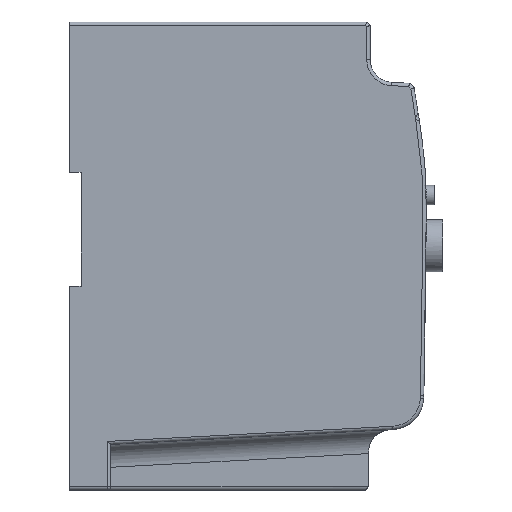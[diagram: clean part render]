
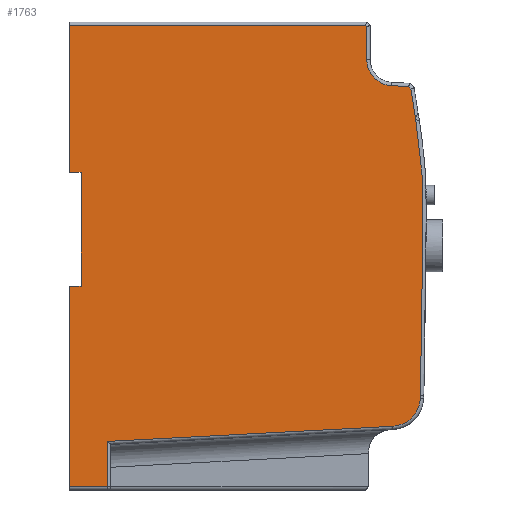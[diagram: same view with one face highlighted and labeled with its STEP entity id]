
A CAD part, front view. The second image highlights one B-rep face of the part: STEP entity #1763.
In plain terms, the highlighted planar face has unit normal (0, -1, 0).
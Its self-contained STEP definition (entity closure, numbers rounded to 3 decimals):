
#1763=ADVANCED_FACE('',(#6102),#6104,.T.);
#6102=FACE_BOUND('',#6103,.T.);
#6103=EDGE_LOOP('',(#10495,#10496,#10497,#10498,#10499,#10500,#10501,#10502,#10503,
#10504,#10505,#10506,#10507,#10508,#10509,#10510,#10511,#10512));
#6104=PLANE('',#6105);
#6105=AXIS2_PLACEMENT_3D('',#6106,#6107,#6108);
#6106=CARTESIAN_POINT('',(0.,-42.5,0.));
#6107=DIRECTION('',(0.,-1.,0.));
#6108=DIRECTION('',(1.,0.,0.));
#10495=ORIENTED_EDGE('',*,*,#12668,.T.);
#10496=ORIENTED_EDGE('',*,*,#12669,.T.);
#10497=ORIENTED_EDGE('',*,*,#12670,.T.);
#10498=ORIENTED_EDGE('',*,*,#12671,.T.);
#10499=ORIENTED_EDGE('',*,*,#12672,.T.);
#10500=ORIENTED_EDGE('',*,*,#12673,.T.);
#10501=ORIENTED_EDGE('',*,*,#12674,.T.);
#10502=ORIENTED_EDGE('',*,*,#12675,.T.);
#10503=ORIENTED_EDGE('',*,*,#12676,.T.);
#10504=ORIENTED_EDGE('',*,*,#12632,.T.);
#10505=ORIENTED_EDGE('',*,*,#12643,.T.);
#10506=ORIENTED_EDGE('',*,*,#12677,.T.);
#10507=ORIENTED_EDGE('',*,*,#12628,.T.);
#10508=ORIENTED_EDGE('',*,*,#12622,.T.);
#10509=ORIENTED_EDGE('',*,*,#12667,.T.);
#10510=ORIENTED_EDGE('',*,*,#12678,.T.);
#10511=ORIENTED_EDGE('',*,*,#12679,.T.);
#10512=ORIENTED_EDGE('',*,*,#12680,.T.);
#12622=EDGE_CURVE('',#14260,#14258,#14261,.T.);
#12628=EDGE_CURVE('',#14271,#14260,#14272,.T.);
#12632=EDGE_CURVE('',#14277,#14275,#14278,.T.);
#12643=EDGE_CURVE('',#14275,#14293,#14295,.T.);
#12667=EDGE_CURVE('',#14258,#14337,#14339,.T.);
#12668=EDGE_CURVE('',#14340,#14341,#14342,.T.);
#12669=EDGE_CURVE('',#14341,#14343,#14344,.F.);
#12670=EDGE_CURVE('',#14343,#14345,#14346,.F.);
#12671=EDGE_CURVE('',#14345,#14347,#14348,.T.);
#12672=EDGE_CURVE('',#14347,#14349,#14350,.T.);
#12673=EDGE_CURVE('',#14349,#14351,#14352,.T.);
#12674=EDGE_CURVE('',#14351,#14353,#14354,.T.);
#12675=EDGE_CURVE('',#14353,#14355,#14356,.T.);
#12676=EDGE_CURVE('',#14355,#14277,#14357,.T.);
#12677=EDGE_CURVE('',#14293,#14271,#14358,.T.);
#12678=EDGE_CURVE('',#14337,#14359,#14360,.T.);
#12679=EDGE_CURVE('',#14359,#14361,#14362,.T.);
#12680=EDGE_CURVE('',#14361,#14340,#14363,.T.);
#14258=VERTEX_POINT('',#17846);
#14260=VERTEX_POINT('',#17850);
#14261=LINE('',#17851,#17852);
#14271=VERTEX_POINT('',#17876);
#14272=LINE('',#17877,#17878);
#14275=VERTEX_POINT('',#17887);
#14277=VERTEX_POINT('',#17892);
#14278=CIRCLE('',#17893,8.);
#14293=VERTEX_POINT('',#17931);
#14295=LINE('',#17936,#17937);
#14337=VERTEX_POINT('',#18038);
#14339=LINE('',#18042,#18043);
#14340=VERTEX_POINT('',#18045);
#14341=VERTEX_POINT('',#18046);
#14342=LINE('',#18047,#18048);
#14343=VERTEX_POINT('',#18050);
#14344=LINE('',#18051,#18052);
#14345=VERTEX_POINT('',#18054);
#14346=LINE('',#18055,#18056);
#14347=VERTEX_POINT('',#18058);
#14348=CIRCLE('',#18059,9.);
#14349=VERTEX_POINT('',#18063);
#14350=LINE('',#18064,#18065);
#14351=VERTEX_POINT('',#18067);
#14352=B_SPLINE_CURVE_WITH_KNOTS('',3,
(#18068,#18069,#18070,#18071,#18072,#18073,#18074,#18075,#18076,#18077,#18078,#18079),
.UNSPECIFIED.,.F.,.F.,
(4,1,1,1,1,1,1,1,1,4),
(0.,0.19,0.326,0.392,0.464,0.532,
0.627,0.74,0.868,1.),
.UNSPECIFIED.);
#14353=VERTEX_POINT('',#18080);
#14354=LINE('',#18081,#18082);
#14355=VERTEX_POINT('',#18084);
#14356=LINE('',#18085,#18086);
#14357=LINE('',#18088,#18089);
#14358=LINE('',#18091,#18092);
#14359=VERTEX_POINT('',#18094);
#14360=LINE('',#18095,#18096);
#14361=VERTEX_POINT('',#18098);
#14362=LINE('',#18099,#18100);
#14363=LINE('',#18102,#18103);
#17846=CARTESIAN_POINT('',(0.,-42.5,25.7));
#17850=CARTESIAN_POINT('',(0.,-42.5,71.));
#17851=CARTESIAN_POINT('',(0.,-42.5,71.));
#17852=VECTOR('',#17853,1.);
#17853=DIRECTION('',(0.,0.,-1.));
#17876=CARTESIAN_POINT('',(91.086,-42.5,71.));
#17877=CARTESIAN_POINT('',(91.086,-42.5,71.));
#17878=VECTOR('',#17879,1.);
#17879=DIRECTION('',(-1.,0.,0.));
#17887=CARTESIAN_POINT('',(91.5,-42.5,60.411));
#17892=CARTESIAN_POINT('',(99.077,-42.5,52.422));
#17893=AXIS2_PLACEMENT_3D('',#17894,#17895,#17896);
#17894=CARTESIAN_POINT('',(99.5,-42.5,60.411));
#17895=DIRECTION('',(0.,1.,0.));
#17896=DIRECTION('',(-0.053,0.,-0.999));
#17931=CARTESIAN_POINT('',(91.5,-42.5,70.586));
#17936=CARTESIAN_POINT('',(91.5,-42.5,60.411));
#17937=VECTOR('',#17938,1.);
#17938=DIRECTION('',(0.,0.,1.));
#18038=CARTESIAN_POINT('',(3.6,-42.5,25.7));
#18042=CARTESIAN_POINT('',(0.,-42.5,25.7));
#18043=VECTOR('',#18044,1.);
#18044=DIRECTION('',(1.,0.,0.));
#18045=CARTESIAN_POINT('',(0.,-42.5,-71.));
#18046=CARTESIAN_POINT('',(11.7,-42.5,-71.));
#18047=CARTESIAN_POINT('',(0.,-42.5,-71.));
#18048=VECTOR('',#18049,1.);
#18049=DIRECTION('',(1.,0.,0.));
#18050=CARTESIAN_POINT('',(11.7,-42.5,-57.052));
#18051=CARTESIAN_POINT('',(11.7,-42.5,-57.052));
#18052=VECTOR('',#18053,1.);
#18053=DIRECTION('',(0.,0.,-1.));
#18054=CARTESIAN_POINT('',(99.459,-42.5,-52.402));
#18055=CARTESIAN_POINT('',(99.459,-42.5,-52.402));
#18056=VECTOR('',#18057,1.);
#18057=DIRECTION('',(-0.999,0.,-0.053));
#18058=CARTESIAN_POINT('',(107.978,-42.5,-43.69));
#18059=AXIS2_PLACEMENT_3D('',#18060,#18061,#18062);
#18060=CARTESIAN_POINT('',(98.983,-42.5,-43.415));
#18061=DIRECTION('',(0.,-1.,0.));
#18062=DIRECTION('',(0.053,0.,-0.999));
#18063=CARTESIAN_POINT('',(108.001,-42.5,-42.966));
#18064=CARTESIAN_POINT('',(107.978,-42.5,-43.69));
#18065=VECTOR('',#18066,1.);
#18066=DIRECTION('',(0.031,0.,1.));
#18067=CARTESIAN_POINT('',(106.515,-42.5,42.327));
#18068=CARTESIAN_POINT('',(108.001,-42.5,-42.963));
#18069=CARTESIAN_POINT('',(108.202,-42.5,-37.559));
#18070=CARTESIAN_POINT('',(108.365,-42.5,-28.263));
#18071=CARTESIAN_POINT('',(108.429,-42.5,-17.076));
#18072=CARTESIAN_POINT('',(108.492,-42.5,-9.247));
#18073=CARTESIAN_POINT('',(108.572,-42.5,-3.353));
#18074=CARTESIAN_POINT('',(108.707,-42.5,3.365));
#18075=CARTESIAN_POINT('',(108.837,-42.5,11.235));
#18076=CARTESIAN_POINT('',(108.792,-42.5,20.784));
#18077=CARTESIAN_POINT('',(108.227,-42.5,31.333));
#18078=CARTESIAN_POINT('',(107.23,-42.5,38.641));
#18079=CARTESIAN_POINT('',(106.515,-42.5,42.327));
#18080=CARTESIAN_POINT('',(105.088,-42.5,51.334));
#18081=CARTESIAN_POINT('',(106.515,-42.5,42.327));
#18082=VECTOR('',#18083,1.);
#18083=DIRECTION('',(-0.156,0.,0.988));
#18084=CARTESIAN_POINT('',(104.361,-42.5,52.142));
#18085=CARTESIAN_POINT('',(105.088,-42.5,51.334));
#18086=VECTOR('',#18087,1.);
#18087=DIRECTION('',(-0.669,0.,0.744));
#18088=CARTESIAN_POINT('',(104.361,-42.5,52.142));
#18089=VECTOR('',#18090,1.);
#18090=DIRECTION('',(-0.999,0.,0.053));
#18091=CARTESIAN_POINT('',(91.5,-42.5,70.586));
#18092=VECTOR('',#18093,1.);
#18093=DIRECTION('',(-0.707,0.,0.707));
#18094=CARTESIAN_POINT('',(3.6,-42.5,-9.3));
#18095=CARTESIAN_POINT('',(3.6,-42.5,25.7));
#18096=VECTOR('',#18097,1.);
#18097=DIRECTION('',(0.,0.,-1.));
#18098=CARTESIAN_POINT('',(0.,-42.5,-9.3));
#18099=CARTESIAN_POINT('',(3.6,-42.5,-9.3));
#18100=VECTOR('',#18101,1.);
#18101=DIRECTION('',(-1.,0.,0.));
#18102=CARTESIAN_POINT('',(0.,-42.5,-9.3));
#18103=VECTOR('',#18104,1.);
#18104=DIRECTION('',(0.,0.,-1.));
